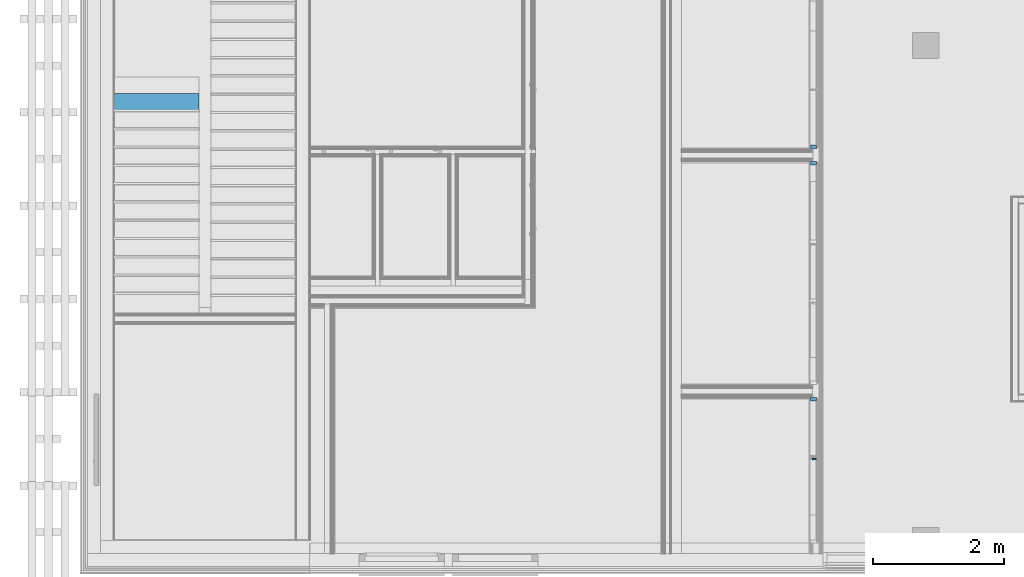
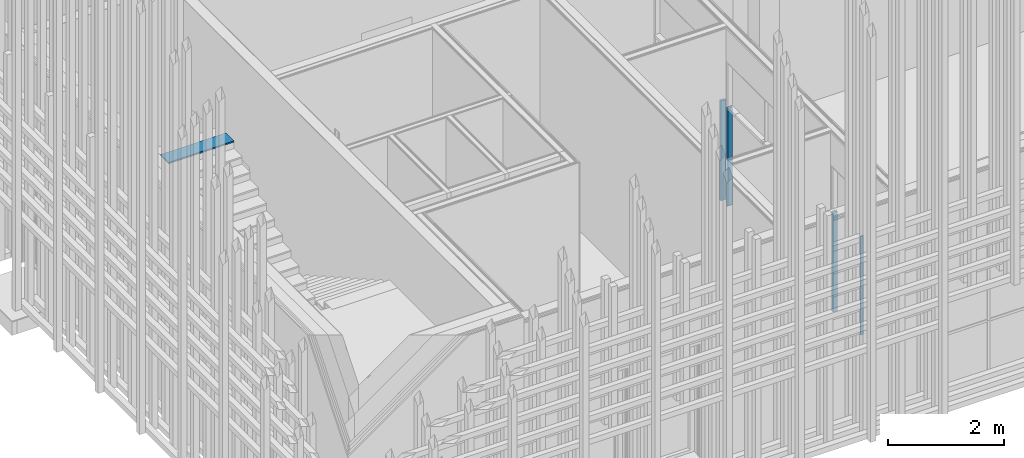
# One storey, part 78 of 260: 5 members, 4 elements without a shape of their own.
"""IFC2X3 building model written with IfcOpenShell, lengths in millimetres."""

import ifcopenshell
import ifcopenshell.guid

model = None  # the IFC model being written
_history = None  # IfcOwnerHistory: only IFC2X3 demands one
_inside = {}  # id of a spatial element -> (the spatial element, [elements in it])
_under = {}  # id of a project, library or spatial element -> (it, [spatial elements below it])
_declared = {}  # id of a project -> (the project, [libraries it declares])
_typed = {}  # id of a type object -> (the type object, [elements of that type])
_made_of = {}  # id of a material, layer set ... -> (it, [elements and type objects made of it])


def new_model(schema):
    """Start an empty IFC model of exactly this schema.

    Asked for "IFC4X3", IfcOpenShell would pick the latest addendum, in which some entities
    have other attributes; the version numbers below select the first issue.
    IFC2X3 requires an IfcOwnerHistory on every rooted entity: one is made here for all.
    """
    global model, _history
    if schema == "IFC4X3":
        model = ifcopenshell.file(schema_version=(4, 3, 0, 0))
    else:
        model = ifcopenshell.file(schema=schema)
    _inside.clear()
    _under.clear()
    _declared.clear()
    _typed.clear()
    _made_of.clear()
    _history = None
    if model.schema == "IFC2X3":
        org = make("IfcOrganization", Name="unknown")
        user = make(
            "IfcPersonAndOrganization",
            ThePerson=make("IfcPerson", FamilyName="unknown"),
            TheOrganization=org,
        )
        app = make(
            "IfcApplication",
            ApplicationDeveloper=org,
            Version="unknown",
            ApplicationFullName="unknown",
            ApplicationIdentifier="unknown",
        )
        _history = make(
            "IfcOwnerHistory",
            OwningUser=user,
            OwningApplication=app,
            ChangeAction="ADDED",
            CreationDate=0,
        )
    return model


def make(cls, **values):
    """One entity of the class cls with the attributes given. An attribute that is None is left unset."""
    return model.create_entity(
        cls, **{name: value for name, value in values.items() if value is not None}
    )


def entity(cls, *values):
    """Any entity or typed value of the class cls, its attributes in the order of the schema. None: left unset."""
    e = model.create_entity(cls)
    for i, value in enumerate(values):
        if value is not None:
            e[i] = value
    return e


def rooted(cls, **values):
    """An entity with a GlobalId (a new one), such as an element, a storey or a relation."""
    return make(cls, GlobalId=ifcopenshell.guid.new(), OwnerHistory=_history, **values)


def si_unit(unit_type, name, prefix=None):
    """IfcSIUnit, for example si_unit("LENGTHUNIT", "METRE", prefix="MILLI")."""
    return make("IfcSIUnit", UnitType=unit_type, Prefix=prefix, Name=name)


def converted_unit(unit_type, name, factor, base, dimensions=None, offset=None):
    """IfcConversionBasedUnit, such as the inch: factor (a typed value) times the base unit."""
    return make(
        "IfcConversionBasedUnit"
        if offset is None
        else "IfcConversionBasedUnitWithOffset",
        ConversionOffset=offset,
        Dimensions=None
        if dimensions is None
        else entity("IfcDimensionalExponents", *dimensions),
        UnitType=unit_type,
        Name=name,
        ConversionFactor=make(
            "IfcMeasureWithUnit", ValueComponent=factor, UnitComponent=base
        ),
    )


def derived_unit(unit_type, elements):
    """IfcDerivedUnit: a product of units, each with its exponent."""
    return make(
        "IfcDerivedUnit",
        Elements=[
            make("IfcDerivedUnitElement", Unit=unit, Exponent=power)
            for unit, power in elements
        ],
        UnitType=unit_type,
    )


def money_unit(currency):
    """IfcMonetaryUnit."""
    return make("IfcMonetaryUnit", Currency=currency)


def assignment(units):
    """IfcUnitAssignment: the units of a project."""
    return None if units is None else make("IfcUnitAssignment", Units=units)


def point(xyz):
    """IfcCartesianPoint."""
    return None if xyz is None else make("IfcCartesianPoint", Coordinates=xyz)


def direction(xyz):
    """IfcDirection."""
    return None if xyz is None else make("IfcDirection", DirectionRatios=xyz)


def frame(location, z_axis=None, x_axis=None):
    """IfcAxis2Placement3D, a coordinate frame: its origin and axes. An axis left out is left unset."""
    return make(
        "IfcAxis2Placement3D",
        Location=point(location),
        Axis=direction(z_axis),
        RefDirection=direction(x_axis),
    )


def origin_with_axes():
    """The frame at (0, 0, 0) with the z axis (0, 0, 1) and the x axis (1, 0, 0) written out."""
    return frame((0.0, 0.0, 0.0), z_axis=(0.0, 0.0, 1.0), x_axis=(1.0, 0.0, 0.0))


def place(relative_to, where):
    """IfcLocalPlacement: puts the frame where relative to a parent placement (None: the world)."""
    return make(
        "IfcLocalPlacement", PlacementRelTo=relative_to, RelativePlacement=where
    )


def context(
    kind, dimensions, precision=None, world=None, true_north=None, identifier=None
):
    """IfcGeometricRepresentationContext, for example the 3D "Model" context."""
    return make(
        "IfcGeometricRepresentationContext",
        ContextIdentifier=identifier,
        ContextType=kind,
        CoordinateSpaceDimension=dimensions,
        Precision=precision,
        WorldCoordinateSystem=world,
        TrueNorth=true_north,
    )


def subcontext(parent, identifier, kind, view, scale=None):
    """IfcGeometricRepresentationSubContext, for example "Body" below "Model"."""
    return make(
        "IfcGeometricRepresentationSubContext",
        ContextIdentifier=identifier,
        ContextType=kind,
        ParentContext=parent,
        TargetScale=scale,
        TargetView=view,
    )


def project(units=None, contexts=None):
    """IfcProject with its units and contexts."""
    return rooted(
        "IfcProject",
        Name="project",
        RepresentationContexts=contexts,
        UnitsInContext=assignment(units),
    )


def spatial(cls, under=None, at=None, **own):
    """A site, building, storey or space (cls), placed at a placement, below another one or the project."""
    s = rooted(cls, ObjectPlacement=at, **own)
    if under is not None:
        _under.setdefault(under.id(), (under, []))[1].append(s)
    return s


def faces_of(points, faces, orient=None, outer=None):
    """IfcFace entities. A face is a list of loops; a loop is a list of indices into points, from 0.

    orient and outer hold one flag for each loop. By default every Orientation is true, the
    first loop of a face is its IfcFaceOuterBound and the others are IfcFaceBound.
    """
    made = []
    for i, loops in enumerate(faces):
        bounds = []
        for j, loop in enumerate(loops):
            is_outer = j == 0 if outer is None else outer[i][j]
            bounds.append(
                make(
                    "IfcFaceOuterBound" if is_outer else "IfcFaceBound",
                    Bound=make("IfcPolyLoop", Polygon=[points[k] for k in loop]),
                    Orientation=True if orient is None else orient[i][j],
                )
            )
        made.append(make("IfcFace", Bounds=bounds))
    return made


def faceted_brep(points, faces, orient=None, outer=None, voids=None):
    """IfcFacetedBrep: a solid bounded by flat faces; with voids (closed shells), ...WithVoids."""
    shared = [point(p) for p in points]
    hull = make("IfcClosedShell", CfsFaces=faces_of(shared, faces, orient, outer))
    if voids is None:
        return make("IfcFacetedBrep", Outer=hull)
    return make(
        "IfcFacetedBrepWithVoids",
        Outer=hull,
        Voids=[
            make(cls, CfsFaces=faces_of(shared, fs, o, b)) for cls, fs, o, b in voids
        ],
    )


def shape(context_of_items, identifier, shape_type, items):
    """IfcShapeRepresentation: the items that make up one representation, for example the "Body"."""
    return make(
        "IfcShapeRepresentation",
        ContextOfItems=context_of_items,
        RepresentationIdentifier=identifier,
        RepresentationType=shape_type,
        Items=items,
    )


def material(Name=None, Category=None):
    """IfcMaterial."""
    return make("IfcMaterial", Name=Name, Category=Category)


def made_of(thing, what):
    """Note that an element or type object is made of a material, layer set ...; save() writes the relation."""
    if what is not None:
        _made_of.setdefault(what.id(), (what, []))[1].append(thing)
    return thing


def type_object(cls, material=None, **own):
    """A type object (cls), such as IfcWallType, which elements share."""
    return made_of(rooted(cls, **own), material)


def element(
    cls,
    number,
    at=None,
    inside=None,
    cuts=None,
    type_object=None,
    material=None,
    context=None,
    identifier="Body",
    shape_type=None,
    held_by="IfcProductDefinitionShape",
    body=None,
    shapes=None,
    **own,
):
    """One element of the class cls, such as IfcWall. Its Tag is "e" and its number.

    at: its placement. inside: the storey or other place that contains it. cuts: it is an
    opening in that element (IfcRelVoidsElement). A single representation is given by context,
    identifier, shape_type and body (its items); several are given by shapes. held_by: the class
    of the entity that holds the representations. save() writes the other relations.
    """
    e = rooted(cls, Tag="e%d" % number, ObjectPlacement=at, **own)
    if body is not None:
        shapes = [shape(context, identifier, shape_type, body)]
    if shapes is not None:
        e.Representation = make(held_by, Representations=shapes)
    if inside is not None:
        _inside.setdefault(inside.id(), (inside, []))[1].append(e)
    if cuts is not None:
        rooted(
            "IfcRelVoidsElement", RelatingBuildingElement=cuts, RelatedOpeningElement=e
        )
    if type_object is not None:
        _typed.setdefault(type_object.id(), (type_object, []))[1].append(e)
    return made_of(e, material)


def aggregate(whole, parts):
    """IfcRelAggregates: a whole, such as a stair, and the parts it consists of."""
    return rooted("IfcRelAggregates", RelatingObject=whole, RelatedObjects=parts)


def save(model, path):
    """Write the relations noted so far, then the file.

    IfcRelAggregates (storeys below a building ...), IfcRelContainedInSpatialStructure (elements
    in a storey), IfcRelDefinesByType, IfcRelAssociatesMaterial and IfcRelDeclares: one each for
    every whole, place, type object, material and project.
    """
    for whole, parts in _under.values():
        aggregate(whole, parts)
    for where, things in _inside.values():
        rooted(
            "IfcRelContainedInSpatialStructure",
            RelatedElements=things,
            RelatingStructure=where,
        )
    for kind, things in _typed.values():
        rooted("IfcRelDefinesByType", RelatedObjects=things, RelatingType=kind)
    for what, things in _made_of.values():
        rooted("IfcRelAssociatesMaterial", RelatedObjects=things, RelatingMaterial=what)
    for by, libraries in _declared.values():
        rooted("IfcRelDeclares", RelatingContext=by, RelatedDefinitions=libraries)
    model.write(path)


model = new_model("IFC2X3")

# Units and contexts
model_context = context("Model", 3, precision=0.01, world=origin_with_axes(), true_north=direction((0.0, 1.0)))
body_context = subcontext(model_context, "Body", "Model", "MODEL_VIEW")
ifc_project = project(units=[si_unit("LENGTHUNIT", "METRE", prefix="MILLI"), si_unit("AREAUNIT", "SQUARE_METRE"), si_unit("VOLUMEUNIT", "CUBIC_METRE"), converted_unit("PLANEANGLEUNIT", "DEGREE", entity("IfcPlaneAngleMeasure", 0.0174532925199), si_unit("PLANEANGLEUNIT", "RADIAN"), dimensions=[0, 0, 0, 0, 0, 0, 0]), money_unit("EUR"), converted_unit("TIMEUNIT", "Year", entity("IfcTimeMeasure", 31556926.0), si_unit("TIMEUNIT", "SECOND"), dimensions=[0, 0, 1, 0, 0, 0, 0]), si_unit("MASSUNIT", "GRAM", prefix="KILO"), si_unit("THERMODYNAMICTEMPERATUREUNIT", "DEGREE_CELSIUS"), si_unit("LUMINOUSINTENSITYUNIT", "LUMEN"), si_unit("ENERGYUNIT", "JOULE", prefix="MEGA"), derived_unit("THERMALCONDUCTANCEUNIT", [(si_unit("POWERUNIT", "WATT"), 1), (si_unit("LENGTHUNIT", "METRE"), -1), (si_unit("THERMODYNAMICTEMPERATUREUNIT", "KELVIN"), -1)]), derived_unit("SPECIFICHEATCAPACITYUNIT", [(si_unit("ENERGYUNIT", "JOULE"), 1), (si_unit("MASSUNIT", "GRAM", prefix="KILO"), -1), (si_unit("THERMODYNAMICTEMPERATUREUNIT", "KELVIN"), -1)]), derived_unit("MASSDENSITYUNIT", [(si_unit("MASSUNIT", "GRAM", prefix="KILO"), 1), (si_unit("VOLUMEUNIT", "CUBIC_METRE"), -1)])], contexts=[model_context])

# Site, building, storey
site_placement = place(None, origin_with_axes())
site = spatial("IfcSite", under=ifc_project, at=site_placement, Name="Kolde pst 67a", CompositionType="ELEMENT")
building_placement = place(site_placement, origin_with_axes())
building = spatial("IfcBuilding", under=site, at=building_placement, Name="Riigigümnaasium", CompositionType="ELEMENT")
storey_placement = place(building_placement, origin_with_axes())
storey = spatial("IfcBuildingStorey", under=building, at=storey_placement, Name="1. korrus", CompositionType="ELEMENT", Elevation=0.0)

# Stair, member
stair_placement = place(storey_placement, frame((1550.05635828, 52010.1463933, 2855.0), z_axis=(0.0, 0.0, 1.0), x_axis=(1.0, 0.0, 0.0)))
stair = element("IfcStair", 1, at=stair_placement, inside=storey, Name="TREPP", ShapeType="NOTDEFINED")
ifc_material_1 = material(Name="_VIIMISTLUSKIHT - viimistlus vastavalt SA osale")
member_type_1 = type_object("IfcMemberType", Name="IfcMember", PredefinedType="USERDEFINED")
member_1_placement = place(stair_placement, frame((-650.0, 2800.0, 1745.0), z_axis=(0.0, 0.0, 1.0), x_axis=(1.0, 0.0, 0.0)))
member_1 = element("IfcMember", 2, at=member_1_placement, type_object=member_type_1, material=ifc_material_1, Name="TV ASTE - 225", ObjectType="Stair Tread", context=body_context, shape_type="Brep", body=[
    faceted_brep([(-650.0, 0.0, -30.0), (650.0, 0.0, -30.0), (650.0, 0.0, 0.0), (-650.0, 0.0, 0.0), (-650.0, 280.0, -30.0), (650.0, 280.0, -30.0), (650.0, 280.0, 0.0), (-650.0, 280.0, 0.0)], [[[0, 1, 2, 3]], [[0, 4, 5, 1]], [[1, 5, 6, 2]], [[3, 2, 6, 7]], [[4, 0, 3, 7]], [[5, 4, 7, 6]]]),
])
aggregate(stair, [member_1])

# Curtain wall, member
curtain_wall_type = type_object("IfcCurtainWallType", Name="Curtain Wall Type", PredefinedType="NOTDEFINED")
curtain_wall_1_placement = place(storey_placement, frame((11015.6058867, 55913.7308132, 399.999999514), z_axis=(0.0, 0.0, 1.0), x_axis=(1.0, 0.0, 0.0)))
curtain_wall_1 = element("IfcCurtainWall", 3, at=curtain_wall_1_placement, inside=storey, type_object=curtain_wall_type, Name="KLAASSEIN")
ifc_material_2 = material(Name="_GENEERILINE MATERJAL")
member_type_2 = type_object("IfcMemberType", Name="Boundary Frame 50 x 100", PredefinedType="MEMBER")
member_2_placement = place(curtain_wall_1_placement, frame((-0.018554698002, -1669.36995033, 4.86439333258e-07), z_axis=(0.0, 0.0, 1.0), x_axis=(1.11147909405e-05, 0.999999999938, 0.0)))
member_2 = element("IfcMember", 4, at=member_2_placement, type_object=member_type_2, material=ifc_material_2, Name="RF RAAM SERV-343", ObjectType="MEMBER", context=body_context, shape_type="Brep", body=[
    faceted_brep([(50.0, 10.0, 0.0), (50.0, 100.0, 0.0), (50.0, 100.0, 2100.00002572), (50.0, 10.0, 2100.00002572), (25.0, 10.0, 0.0), (25.0, 0.0, 0.0), (0.0, 0.0, 0.0), (0.0, 100.0, 0.0), (0.0, 100.0, 2100.00002572), (25.0, 10.0, 2100.00002572), (0.0, 0.0, 2100.00002572), (25.0, 0.0, 2100.00002572)], [[[0, 1, 2, 3]], [[4, 5, 6, 7, 1, 0]], [[1, 7, 8, 2]], [[9, 3, 2, 8, 10, 11]], [[9, 4, 0, 3]], [[5, 4, 9, 11]], [[11, 10, 6, 5]], [[7, 6, 10, 8]]]),
])
aggregate(curtain_wall_1, [member_2])

curtain_wall_2_placement = place(storey_placement, frame((11015.3356079, 51182.3220161, 399.999976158), z_axis=(0.0, 0.0, 1.0), x_axis=(1.0, 0.0, 0.0)))
curtain_wall_2 = element("IfcCurtainWall", 5, at=curtain_wall_2_placement, inside=storey, type_object=curtain_wall_type, Name="KLAASSEIN")
member_3_placement = place(curtain_wall_2_placement, frame((0.031818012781, 2862.6730761, 5.96047033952e-06), z_axis=(0.0, -5.84276234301e-09, 1.0), x_axis=(-1.11147909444e-05, -0.999999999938, -5.84276234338e-09)))
member_3 = element("IfcMember", 6, at=member_3_placement, type_object=member_type_2, material=ifc_material_2, Name="RF RAAM SERV-504", ObjectType="MEMBER", context=body_context, shape_type="Brep", body=[
    faceted_brep([(49.9999997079, -10.0, 50.0000005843), (49.9999877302, -10.0, 2100.00004404), (49.9999877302, -100.0, 2100.00004404), (49.9999997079, -100.0, 50.0000005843), (24.9999877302, -10.0, 2100.00004389), (24.9999998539, -10.0, 25.0000002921), (24.9999877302, 0.0, 2100.00004389), (-1.22698011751e-05, 0.0, 2100.00004375), (-1.22698011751e-05, -100.0, 2100.00004375), (0.0, -100.0, 0.0), (0.0, 0.0, 0.0), (24.9999998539, 0.0, 25.0000002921)], [[[0, 1, 2, 3]], [[4, 1, 0, 5]], [[4, 6, 7, 8, 2, 1]], [[2, 8, 9, 3]], [[5, 0, 3, 9, 10, 11]], [[11, 6, 4, 5]], [[6, 11, 10, 7]], [[8, 7, 10, 9]]]),
])
aggregate(curtain_wall_2, [member_3])

# Curtain wall, members
curtain_wall_3_placement = place(storey_placement, frame((11015.4348778, 48773.3132292, 399.999999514), z_axis=(0.0, 0.0, 1.0), x_axis=(1.0, 0.0, 0.0)))
curtain_wall_3 = element("IfcCurtainWall", 7, at=curtain_wall_3_placement, inside=storey, type_object=curtain_wall_type, Name="KLAASSEIN")
member_4_placement = place(curtain_wall_3_placement, frame((-0.0180832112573, 1656.66619644, 0.0), z_axis=(0.0, 0.0, 1.0), x_axis=(1.09154223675e-05, -0.99999999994, 0.0)))
member_4 = element("IfcMember", 8, at=member_4_placement, type_object=member_type_2, material=ifc_material_2, Name="RF RAAM SERV-337", ObjectType="MEMBER", context=body_context, shape_type="Brep", body=[
    faceted_brep([(50.0, -10.0, 0.0), (50.0, -10.0, 2100.00002621), (50.0, -100.0, 2100.00002621), (50.0, -100.0, 0.0), (25.0, -10.0, 2100.00002621), (25.0, -10.0, 0.0), (25.0, 0.0, 2100.00002621), (0.0, 0.0, 2100.00002621), (0.0, -100.0, 2100.00002621), (0.0, -100.0, 0.0), (0.0, 0.0, 0.0), (25.0, 0.0, 0.0)], [[[0, 1, 2, 3]], [[4, 1, 0, 5]], [[4, 6, 7, 8, 2, 1]], [[3, 2, 8, 9]], [[5, 0, 3, 9, 10, 11]], [[11, 6, 4, 5]], [[6, 11, 10, 7]], [[9, 8, 7, 10]]]),
])
ifc_material_3 = material(Name="_METALL - alumiinium")
member_type_3 = type_object("IfcMemberType", Name="Mullion Frame 20 x 70", PredefinedType="MEMBER")
member_5_placement = place(curtain_wall_3_placement, frame((-0.0078227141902, 716.666192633, 0.0), z_axis=(0.0, 0.0, 1.0), x_axis=(1.09154223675e-05, -0.99999999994, 0.0)))
member_5 = element("IfcMember", 9, at=member_5_placement, type_object=member_type_3, material=ifc_material_3, Name="RF RAAM VERT-421", ObjectType="MEMBER", context=body_context, shape_type="Brep", body=[
    faceted_brep([(0.0, -10.0, 50.0), (-10.0, -10.0, 50.0), (-10.0, -10.0, 2130.00002621), (0.0, -10.0, 2130.00002621), (10.0, -10.0, 2130.00002621), (10.0, -10.0, 50.0), (10.0, -70.0, 50.0), (-9.99999999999, -70.0, 50.0), (-9.99999999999, -70.0, 2130.00002621), (10.0, -70.0, 2130.00002621)], [[[0, 1, 2, 3, 4, 5]], [[1, 0, 5, 6, 7]], [[2, 1, 7, 8]], [[3, 2, 8, 9, 4]], [[4, 9, 6, 5]], [[8, 7, 6, 9]]]),
])
aggregate(curtain_wall_3, [member_4, member_5])

save(model, "model.ifc")
